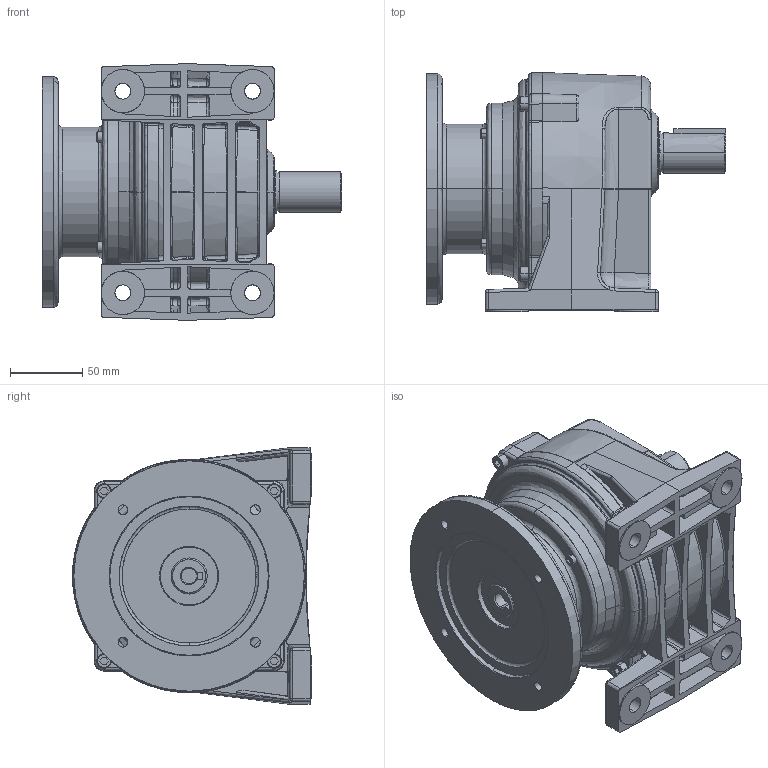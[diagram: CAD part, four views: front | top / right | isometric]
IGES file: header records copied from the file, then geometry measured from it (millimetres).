
Start section: SolidWorks IGES file using analytic representation for surfaces
Bounding box: 208 x 166 x 178.19 mm (x, y, z)
Surface area: 260647.5 mm2 (no closed solid volume)
Topology: 0 solids, 0 shells, 750 faces, 9544 edges, 9530 vertices
Faces by surface type: bspline 453, revolution 297
